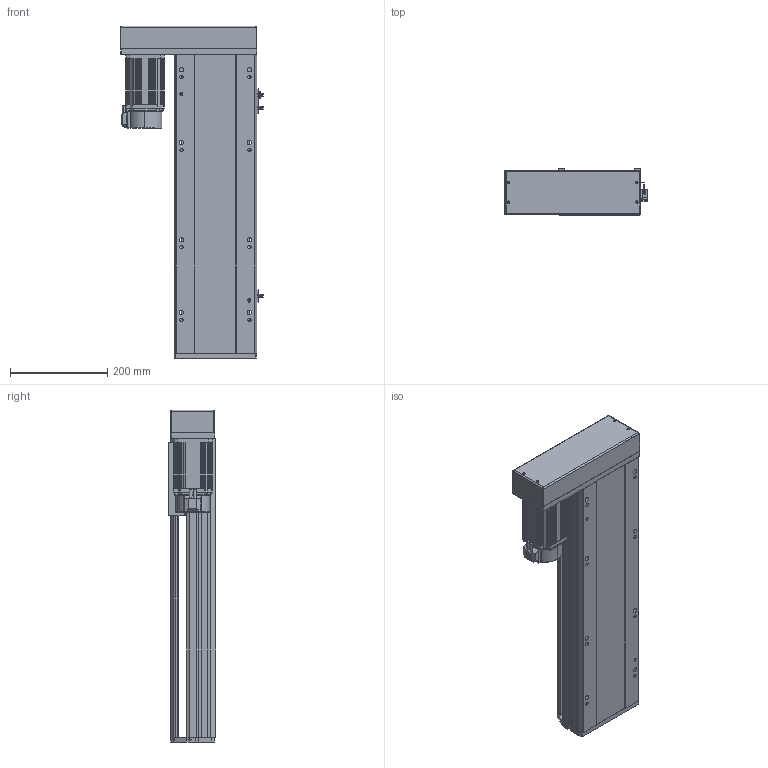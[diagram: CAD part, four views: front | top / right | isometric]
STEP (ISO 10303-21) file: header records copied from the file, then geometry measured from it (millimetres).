
FILE_DESCRIPTION (( 'STEP AP214' ), '1' );
FILE_NAME ('QTH17-400-BR-P75.STEP', '2021-11-13T09:16:10', ( '' ), ( '' ), 'SwSTEP 2.0', 'SolidWorks 2020', '' );
FILE_SCHEMA (( 'AUTOMOTIVE_DESIGN' ));
Length unit declared in the file: millimetre
Products named in the file (6): 葩璃 QTH17-BR-001 菁釱MZ-170-01^QTH17-BR-P75; QTH17-400-BR-P75; 葩璃 QTH17-BL-002 奻裔MZ-170-02^QTH17-BR-P75; 葩璃 侂狟750W^QTH17-BR-P75; 葩璃 pm-t65-672^QTH17-BR-P75; 葩璃 QTH17-BC-005 賑釱MZ-170-03 ^QTH17-BR-P75_SFA20
Assembly tree (7 placements, depth 2):
  QTH17-400-BR-P75
    葩璃 QTH17-BR-001 菁釱MZ-170-01^QTH17-BR-P75
    葩璃 QTH17-BL-002 奻裔MZ-170-02^QTH17-BR-P75
    葩璃 QTH17-BC-005 賑釱MZ-170-03 ^QTH17-BR-P75_SFA20
    葩璃 pm-t65-672^QTH17-BR-P75  x3
    葩璃 侂狟750W^QTH17-BR-P75
Bounding box: 293.7 x 97 x 683.5 mm (x, y, z)
Volume: 7523659.6 mm3; surface area: 937774.2 mm2
Topology: 13 solids, 13 shells, 1258 faces, 3375 edges, 2161 vertices
Faces by surface type: plane 764, cylinder 406, cone 59, bspline 29
Entity records: 33460 total; most frequent: CARTESIAN_POINT 6290, DIRECTION 5400, ORIENTED_EDGE 5346, EDGE_CURVE 2673, LINE 1854, VECTOR 1854, AXIS2_PLACEMENT_3D 1773, VERTEX_POINT 1737
